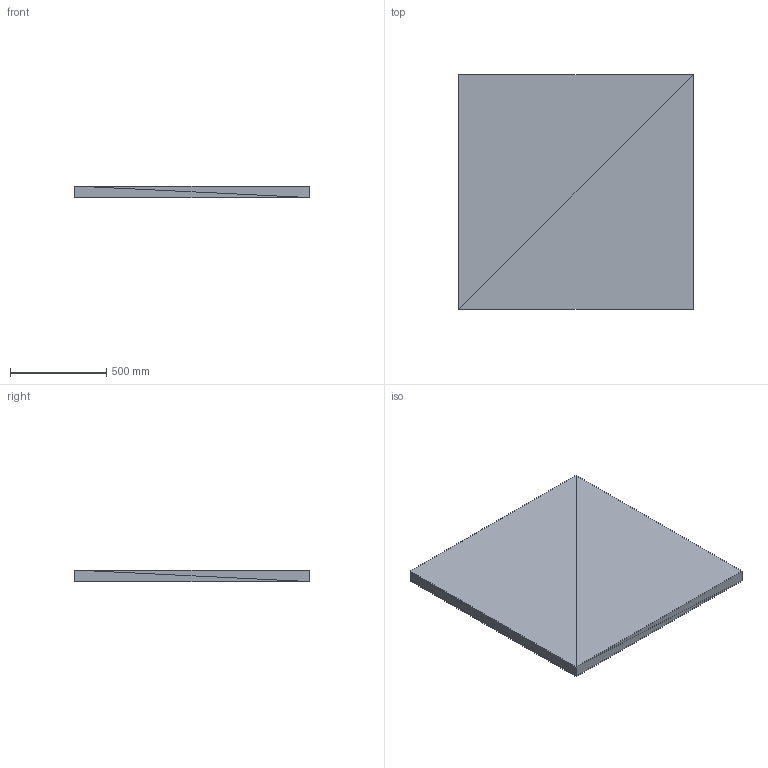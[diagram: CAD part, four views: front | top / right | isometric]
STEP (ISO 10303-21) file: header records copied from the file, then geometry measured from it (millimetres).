
FILE_DESCRIPTION(('ISINAC STEP AP214'),'2;1');
FILE_NAME('ISINAC_C.1220_60mm_IMANTADA','2026-05-03T10:49:19',('ISINAC'),('www.isinac.com'),'ISINAC BIM Generator 1.0','','');
FILE_SCHEMA(('AUTOMOTIVE_DESIGN'));
Length unit declared in the file: millimetre
Products named in the file (1): ISINAC_C.1220_60mm_IMANTADA
Bounding box: 1220 x 1220 x 62 mm (x, y, z)
Surface area: 6256160 mm2 (no closed solid volume)
Topology: 0 solids, 24 shells, 24 faces, 72 edges, 72 vertices
Faces by surface type: plane 24
Entity records: 277 total; most frequent: CARTESIAN_POINT 96, DIRECTION 48, POLY_LOOP 24, FACE_OUTER_BOUND 24, AXIS2_PLACEMENT_3D 24, PLANE 24, FACE_SURFACE 24, CLOSED_SHELL 1
